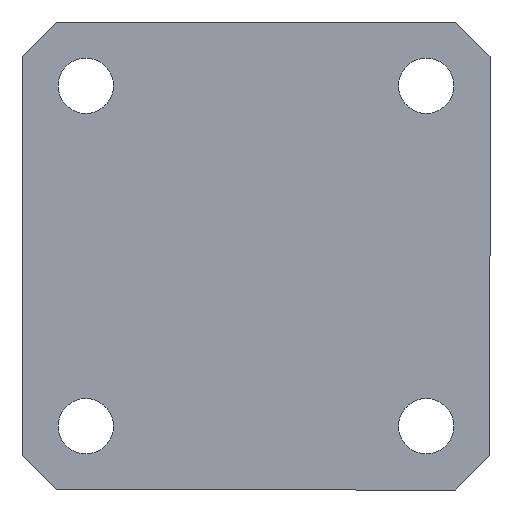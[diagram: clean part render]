
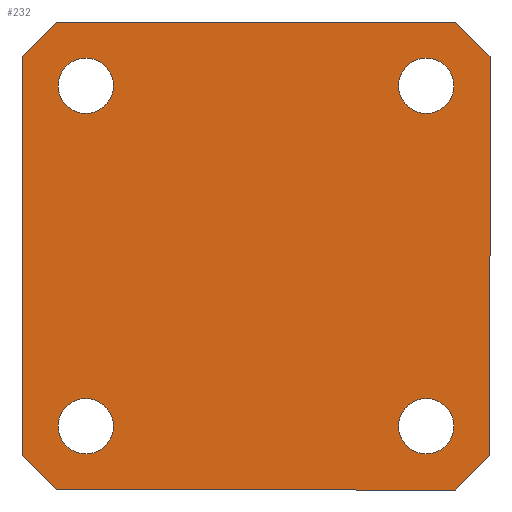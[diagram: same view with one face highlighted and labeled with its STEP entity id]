
A CAD part, front view. The second image highlights one B-rep face of the part: STEP entity #232.
In plain terms, the highlighted planar face has unit normal (0, -1, 0).
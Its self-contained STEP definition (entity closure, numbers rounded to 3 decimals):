
#3 = CARTESIAN_POINT ( 'NONE',  ( -20., 0., 20. ) ) ;
#6 = EDGE_LOOP ( 'NONE', ( #434, #172 ) ) ;
#12 = VECTOR ( 'NONE', #617, 1000. ) ;
#21 = CARTESIAN_POINT ( 'NONE',  ( 20., 0., -23.25 ) ) ;
#37 = VERTEX_POINT ( 'NONE', #1249 ) ;
#40 = AXIS2_PLACEMENT_3D ( 'NONE', #202, #973, #528 ) ;
#53 = FACE_BOUND ( 'NONE', #62, .T. ) ;
#55 = EDGE_CURVE ( 'NONE', #585, #338, #365, .T. ) ;
#62 = EDGE_LOOP ( 'NONE', ( #218, #634 ) ) ;
#67 = CARTESIAN_POINT ( 'NONE',  ( 20., 0., -20. ) ) ;
#78 = DIRECTION ( 'NONE',  ( -1., 0., 0. ) ) ;
#103 = CARTESIAN_POINT ( 'NONE',  ( 27.5, 0., 23.5 ) ) ;
#104 = CIRCLE ( 'NONE', #593, 3.25 ) ;
#125 = CARTESIAN_POINT ( 'NONE',  ( -27.5, 0., 27.5 ) ) ;
#127 = EDGE_CURVE ( 'NONE', #1217, #37, #912, .T. ) ;
#172 = ORIENTED_EDGE ( 'NONE', *, *, #740, .T. ) ;
#185 = DIRECTION ( 'NONE',  ( 0., 0., 1. ) ) ;
#202 = CARTESIAN_POINT ( 'NONE',  ( 20., 0., 20. ) ) ;
#215 = AXIS2_PLACEMENT_3D ( 'NONE', #838, #269, #1391 ) ;
#218 = ORIENTED_EDGE ( 'NONE', *, *, #887, .T. ) ;
#224 = CIRCLE ( 'NONE', #1048, 3.25 ) ;
#232 = ADVANCED_FACE ( 'NONE', ( #381, #53, #476, #275, #1055 ), #703, .F. ) ;
#240 = DIRECTION ( 'NONE',  ( 0., 0., 1. ) ) ;
#253 = ORIENTED_EDGE ( 'NONE', *, *, #512, .F. ) ;
#269 = DIRECTION ( 'NONE',  ( 0., 1., 0. ) ) ;
#275 = FACE_BOUND ( 'NONE', #321, .T. ) ;
#289 = CARTESIAN_POINT ( 'NONE',  ( 20., 0., 16.75 ) ) ;
#293 = VECTOR ( 'NONE', #318, 1000. ) ;
#298 = LINE ( 'NONE', #860, #1254 ) ;
#311 = EDGE_CURVE ( 'NONE', #962, #1134, #1304, .T. ) ;
#318 = DIRECTION ( 'NONE',  ( 0.707, 0., 0.707 ) ) ;
#319 = DIRECTION ( 'NONE',  ( 0., 0., -1. ) ) ;
#320 = EDGE_CURVE ( 'NONE', #1226, #37, #298, .T. ) ;
#321 = EDGE_LOOP ( 'NONE', ( #1054, #413 ) ) ;
#332 = LINE ( 'NONE', #657, #293 ) ;
#336 = VECTOR ( 'NONE', #319, 1000. ) ;
#338 = VERTEX_POINT ( 'NONE', #1097 ) ;
#340 = AXIS2_PLACEMENT_3D ( 'NONE', #1270, #721, #1046 ) ;
#341 = DIRECTION ( 'NONE',  ( 1., 0., 0. ) ) ;
#365 = CIRCLE ( 'NONE', #1283, 3.25 ) ;
#379 = CARTESIAN_POINT ( 'NONE',  ( -20., 0., -23.25 ) ) ;
#381 = FACE_BOUND ( 'NONE', #1021, .T. ) ;
#393 = EDGE_CURVE ( 'NONE', #1423, #612, #104, .T. ) ;
#400 = CARTESIAN_POINT ( 'NONE',  ( -23.5, 0., 27.5 ) ) ;
#404 = ORIENTED_EDGE ( 'NONE', *, *, #462, .F. ) ;
#413 = ORIENTED_EDGE ( 'NONE', *, *, #1136, .T. ) ;
#420 = VERTEX_POINT ( 'NONE', #1405 ) ;
#421 = CARTESIAN_POINT ( 'NONE',  ( -20., 0., -20. ) ) ;
#422 = DIRECTION ( 'NONE',  ( 0., 1., 0. ) ) ;
#434 = ORIENTED_EDGE ( 'NONE', *, *, #1056, .T. ) ;
#435 = DIRECTION ( 'NONE',  ( 0., 0., 1. ) ) ;
#462 = EDGE_CURVE ( 'NONE', #1296, #675, #1324, .T. ) ;
#475 = VERTEX_POINT ( 'NONE', #1120 ) ;
#476 = FACE_BOUND ( 'NONE', #6, .T. ) ;
#505 = DIRECTION ( 'NONE',  ( 0., 1., 0. ) ) ;
#512 = EDGE_CURVE ( 'NONE', #962, #1366, #901, .T. ) ;
#524 = VECTOR ( 'NONE', #799, 1000. ) ;
#528 = DIRECTION ( 'NONE',  ( 0., 0., 1. ) ) ;
#553 = DIRECTION ( 'NONE',  ( 0., 0., 1. ) ) ;
#555 = EDGE_CURVE ( 'NONE', #1217, #1134, #797, .T. ) ;
#568 = CARTESIAN_POINT ( 'NONE',  ( 27.5, 0., 23.5 ) ) ;
#584 = DIRECTION ( 'NONE',  ( -0.707, 0., 0.707 ) ) ;
#585 = VERTEX_POINT ( 'NONE', #379 ) ;
#593 = AXIS2_PLACEMENT_3D ( 'NONE', #67, #422, #752 ) ;
#612 = VERTEX_POINT ( 'NONE', #21 ) ;
#617 = DIRECTION ( 'NONE',  ( -0.707, 0., -0.707 ) ) ;
#634 = ORIENTED_EDGE ( 'NONE', *, *, #863, .T. ) ;
#657 = CARTESIAN_POINT ( 'NONE',  ( 23.5, 0., -27.5 ) ) ;
#663 = CARTESIAN_POINT ( 'NONE',  ( 23.5, 0., 27.5 ) ) ;
#669 = DIRECTION ( 'NONE',  ( 0., 0., 1. ) ) ;
#672 = CARTESIAN_POINT ( 'NONE',  ( -20., 0., 20. ) ) ;
#674 = CARTESIAN_POINT ( 'NONE',  ( 27.5, 0., 27.5 ) ) ;
#675 = VERTEX_POINT ( 'NONE', #1392 ) ;
#680 = ORIENTED_EDGE ( 'NONE', *, *, #806, .T. ) ;
#699 = ORIENTED_EDGE ( 'NONE', *, *, #55, .T. ) ;
#703 = PLANE ( 'NONE',  #340 ) ;
#704 = CARTESIAN_POINT ( 'NONE',  ( 20., 0., -16.75 ) ) ;
#721 = DIRECTION ( 'NONE',  ( 0., 1., 0. ) ) ;
#739 = ORIENTED_EDGE ( 'NONE', *, *, #127, .T. ) ;
#740 = EDGE_CURVE ( 'NONE', #778, #1363, #1071, .T. ) ;
#752 = DIRECTION ( 'NONE',  ( 0., 0., 1. ) ) ;
#775 = DIRECTION ( 'NONE',  ( 0., 1., 0. ) ) ;
#777 = CARTESIAN_POINT ( 'NONE',  ( 20., 0., 23.25 ) ) ;
#778 = VERTEX_POINT ( 'NONE', #289 ) ;
#784 = AXIS2_PLACEMENT_3D ( 'NONE', #3, #1447, #435 ) ;
#797 = LINE ( 'NONE', #1246, #1438 ) ;
#799 = DIRECTION ( 'NONE',  ( 0.707, 0., -0.707 ) ) ;
#806 = EDGE_CURVE ( 'NONE', #338, #585, #1373, .T. ) ;
#838 = CARTESIAN_POINT ( 'NONE',  ( 20., 0., 20. ) ) ;
#860 = CARTESIAN_POINT ( 'NONE',  ( -27.5, 0., -27.5 ) ) ;
#863 = EDGE_CURVE ( 'NONE', #475, #420, #224, .T. ) ;
#870 = CARTESIAN_POINT ( 'NONE',  ( 23.5, 0., -27.5 ) ) ;
#873 = CIRCLE ( 'NONE', #1198, 3.25 ) ;
#887 = EDGE_CURVE ( 'NONE', #420, #475, #1416, .T. ) ;
#895 = EDGE_CURVE ( 'NONE', #1226, #675, #332, .T. ) ;
#901 = LINE ( 'NONE', #125, #1394 ) ;
#912 = LINE ( 'NONE', #1358, #524 ) ;
#929 = AXIS2_PLACEMENT_3D ( 'NONE', #421, #1316, #955 ) ;
#953 = CARTESIAN_POINT ( 'NONE',  ( 20., 0., -20. ) ) ;
#955 = DIRECTION ( 'NONE',  ( 0., 0., 1. ) ) ;
#962 = VERTEX_POINT ( 'NONE', #1156 ) ;
#971 = EDGE_LOOP ( 'NONE', ( #1154, #1189, #404, #986, #253, #1334, #1007, #739 ) ) ;
#973 = DIRECTION ( 'NONE',  ( 0., 1., 0. ) ) ;
#986 = ORIENTED_EDGE ( 'NONE', *, *, #1397, .T. ) ;
#1007 = ORIENTED_EDGE ( 'NONE', *, *, #555, .F. ) ;
#1011 = DIRECTION ( 'NONE',  ( 0., 1., 0. ) ) ;
#1021 = EDGE_LOOP ( 'NONE', ( #680, #699 ) ) ;
#1046 = DIRECTION ( 'NONE',  ( 0., 0., 1. ) ) ;
#1048 = AXIS2_PLACEMENT_3D ( 'NONE', #672, #1011, #553 ) ;
#1054 = ORIENTED_EDGE ( 'NONE', *, *, #393, .T. ) ;
#1055 = FACE_OUTER_BOUND ( 'NONE', #971, .T. ) ;
#1056 = EDGE_CURVE ( 'NONE', #1363, #778, #1336, .T. ) ;
#1071 = CIRCLE ( 'NONE', #40, 3.25 ) ;
#1097 = CARTESIAN_POINT ( 'NONE',  ( -20., 0., -16.75 ) ) ;
#1120 = CARTESIAN_POINT ( 'NONE',  ( -20., 0., 16.75 ) ) ;
#1134 = VERTEX_POINT ( 'NONE', #1398 ) ;
#1136 = EDGE_CURVE ( 'NONE', #612, #1423, #873, .T. ) ;
#1154 = ORIENTED_EDGE ( 'NONE', *, *, #320, .F. ) ;
#1156 = CARTESIAN_POINT ( 'NONE',  ( -23.5, 0., 27.5 ) ) ;
#1189 = ORIENTED_EDGE ( 'NONE', *, *, #895, .T. ) ;
#1198 = AXIS2_PLACEMENT_3D ( 'NONE', #953, #505, #185 ) ;
#1217 = VERTEX_POINT ( 'NONE', #1402 ) ;
#1226 = VERTEX_POINT ( 'NONE', #870 ) ;
#1246 = CARTESIAN_POINT ( 'NONE',  ( -27.5, 0., 27.5 ) ) ;
#1249 = CARTESIAN_POINT ( 'NONE',  ( -23.5, 0., -27.5 ) ) ;
#1254 = VECTOR ( 'NONE', #78, 1000. ) ;
#1270 = CARTESIAN_POINT ( 'NONE',  ( 0., 0., 0. ) ) ;
#1274 = LINE ( 'NONE', #568, #1388 ) ;
#1283 = AXIS2_PLACEMENT_3D ( 'NONE', #1350, #775, #669 ) ;
#1296 = VERTEX_POINT ( 'NONE', #103 ) ;
#1304 = LINE ( 'NONE', #400, #12 ) ;
#1316 = DIRECTION ( 'NONE',  ( 0., 1., 0. ) ) ;
#1324 = LINE ( 'NONE', #674, #336 ) ;
#1334 = ORIENTED_EDGE ( 'NONE', *, *, #311, .T. ) ;
#1336 = CIRCLE ( 'NONE', #215, 3.25 ) ;
#1350 = CARTESIAN_POINT ( 'NONE',  ( -20., 0., -20. ) ) ;
#1358 = CARTESIAN_POINT ( 'NONE',  ( -27.5, 0., -23.5 ) ) ;
#1363 = VERTEX_POINT ( 'NONE', #777 ) ;
#1366 = VERTEX_POINT ( 'NONE', #663 ) ;
#1373 = CIRCLE ( 'NONE', #929, 3.25 ) ;
#1388 = VECTOR ( 'NONE', #584, 1000. ) ;
#1391 = DIRECTION ( 'NONE',  ( 0., 0., 1. ) ) ;
#1392 = CARTESIAN_POINT ( 'NONE',  ( 27.5, 0., -23.5 ) ) ;
#1394 = VECTOR ( 'NONE', #341, 1000. ) ;
#1397 = EDGE_CURVE ( 'NONE', #1296, #1366, #1274, .T. ) ;
#1398 = CARTESIAN_POINT ( 'NONE',  ( -27.5, 0., 23.5 ) ) ;
#1402 = CARTESIAN_POINT ( 'NONE',  ( -27.5, 0., -23.5 ) ) ;
#1405 = CARTESIAN_POINT ( 'NONE',  ( -20., 0., 23.25 ) ) ;
#1416 = CIRCLE ( 'NONE', #784, 3.25 ) ;
#1423 = VERTEX_POINT ( 'NONE', #704 ) ;
#1438 = VECTOR ( 'NONE', #240, 1000. ) ;
#1447 = DIRECTION ( 'NONE',  ( 0., 1., 0. ) ) ;
